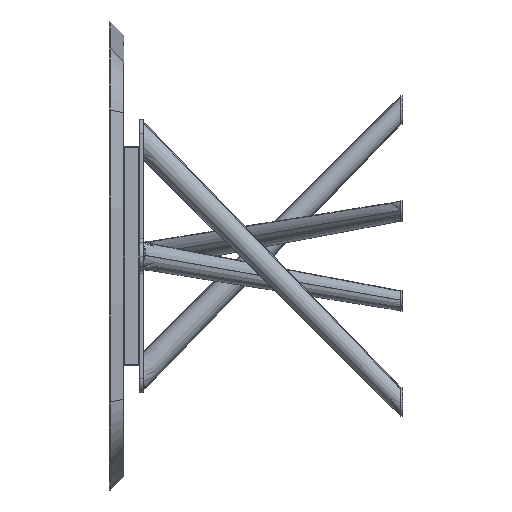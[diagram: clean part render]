
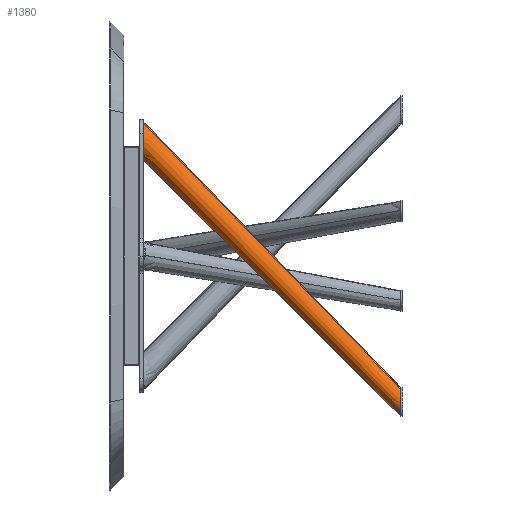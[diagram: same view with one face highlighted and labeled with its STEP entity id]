
A CAD part, left-side view. The second image highlights one B-rep face of the part: STEP entity #1380.
In plain terms, the highlighted conical face has half-angle 0.573 degrees and reference radius 25 mm.
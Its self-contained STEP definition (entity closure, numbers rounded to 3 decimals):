
#382 = VECTOR ( 'NONE', #625, 1000. ) ;
#417 = DIRECTION ( 'NONE',  ( -0.121, -0.697, -0.706 ) ) ;
#625 = DIRECTION ( 'NONE',  ( 0.122, 0.704, 0.699 ) ) ;
#705 = ORIENTED_EDGE ( 'NONE', *, *, #8491, .F. ) ;
#860 =( BOUNDED_CURVE ( )  B_SPLINE_CURVE ( 3, ( #4044, #12108, #4190, #9877 ),
 .UNSPECIFIED., .F., .F. ) 
 B_SPLINE_CURVE_WITH_KNOTS ( ( 4, 4 ),
 ( 0.172, 3.31 ),
 .UNSPECIFIED. ) 
 CURVE ( )  GEOMETRIC_REPRESENTATION_ITEM ( )  RATIONAL_B_SPLINE_CURVE ( ( 1., 0.334, 0.334, 1. ) ) 
 REPRESENTATION_ITEM ( '' )  );
#1044 = CARTESIAN_POINT ( 'NONE',  ( 1.693, 655.157, 338.851 ) ) ;
#1273 = ORIENTED_EDGE ( 'NONE', *, *, #3739, .F. ) ;
#1380 = ADVANCED_FACE ( 'NONE', ( #8952 ), #8161, .T. ) ;
#1517 = AXIS2_PLACEMENT_3D ( 'NONE', #5251, #6397, #14558 ) ;
#2265 =( BOUNDED_CURVE ( )  B_SPLINE_CURVE ( 3, ( #3240, #13982, #4458, #15213 ),
 .UNSPECIFIED., .F., .T. ) 
 B_SPLINE_CURVE_WITH_KNOTS ( ( 4, 4 ),
 ( 0.662, 3.31 ),
 .UNSPECIFIED. ) 
 CURVE ( )  GEOMETRIC_REPRESENTATION_ITEM ( )  RATIONAL_B_SPLINE_CURVE ( ( 1., 0.496, 0.496, 1. ) ) 
 REPRESENTATION_ITEM ( '' )  );
#2628 = VECTOR ( 'NONE', #5676, 1000. ) ;
#3240 = CARTESIAN_POINT ( 'NONE',  ( -14.298, 660., 336.819 ) ) ;
#3739 = EDGE_CURVE ( 'NONE', #6070, #6138, #860, .T. ) ;
#4044 = CARTESIAN_POINT ( 'NONE',  ( -113.065, 0., -338.343 ) ) ;
#4190 = CARTESIAN_POINT ( 'NONE',  ( -167.673, 0., -413.666 ) ) ;
#4458 = CARTESIAN_POINT ( 'NONE',  ( -48.275, 660., 241.977 ) ) ;
#4645 = VERTEX_POINT ( 'NONE', #5537 ) ;
#4767 = ORIENTED_EDGE ( 'NONE', *, *, #12492, .T. ) ;
#5251 = CARTESIAN_POINT ( 'NONE',  ( -117.949, -17.433, -392.267 ) ) ;
#5271 = VERTEX_POINT ( 'NONE', #1044 ) ;
#5537 = CARTESIAN_POINT ( 'NONE',  ( -14.298, 660., 336.819 ) ) ;
#5676 = DIRECTION ( 'NONE',  ( 0.121, 0.69, 0.713 ) ) ;
#5896 = EDGE_CURVE ( 'NONE', #4645, #7404, #2265, .T. ) ;
#6070 = VERTEX_POINT ( 'NONE', #14204 ) ;
#6133 = CARTESIAN_POINT ( 'NONE',  ( -2.49, 660., 245.144 ) ) ;
#6138 = VERTEX_POINT ( 'NONE', #11201 ) ;
#6281 = CARTESIAN_POINT ( 'NONE',  ( 3.462, 679.882, 314.141 ) ) ;
#6358 = DIRECTION ( 'NONE',  ( -0.051, -0.706, 0.706 ) ) ;
#6397 = DIRECTION ( 'NONE',  ( 0.121, 0.697, 0.706 ) ) ;
#6880 = ORIENTED_EDGE ( 'NONE', *, *, #8997, .T. ) ;
#7048 = CARTESIAN_POINT ( 'NONE',  ( -119.212, -35.093, -374.617 ) ) ;
#7404 = VERTEX_POINT ( 'NONE', #6133 ) ;
#8161 = CONICAL_SURFACE ( 'NONE', #1517, 25., 0.01 ) ;
#8491 = EDGE_CURVE ( 'NONE', #6138, #7404, #10026, .T. ) ;
#8952 = FACE_OUTER_BOUND ( 'NONE', #10521, .T. ) ;
#8997 = EDGE_CURVE ( 'NONE', #6070, #5271, #14047, .T. ) ;
#9877 = CARTESIAN_POINT ( 'NONE',  ( -116.725, 0., -410.142 ) ) ;
#10005 = AXIS2_PLACEMENT_3D ( 'NONE', #6281, #417, #6358 ) ;
#10026 = LINE ( 'NONE', #11171, #382 ) ;
#10521 = EDGE_LOOP ( 'NONE', ( #1273, #6880, #4767, #13933, #705 ) ) ;
#11171 = CARTESIAN_POINT ( 'NONE',  ( -116.685, 0.227, -409.917 ) ) ;
#11201 = CARTESIAN_POINT ( 'NONE',  ( -116.725, 0., -410.142 ) ) ;
#11222 = CIRCLE ( 'NONE', #10005, 35. ) ;
#12108 = CARTESIAN_POINT ( 'NONE',  ( -164.026, 0., -342.116 ) ) ;
#12492 = EDGE_CURVE ( 'NONE', #5271, #4645, #11222, .T. ) ;
#13933 = ORIENTED_EDGE ( 'NONE', *, *, #5896, .T. ) ;
#13982 = CARTESIAN_POINT ( 'NONE',  ( -56.207, 660., 303.559 ) ) ;
#14047 = LINE ( 'NONE', #7048, #2628 ) ;
#14204 = CARTESIAN_POINT ( 'NONE',  ( -113.065, 0., -338.343 ) ) ;
#14558 = DIRECTION ( 'NONE',  ( 0.051, 0.706, -0.706 ) ) ;
#15213 = CARTESIAN_POINT ( 'NONE',  ( -2.49, 660., 245.144 ) ) ;
